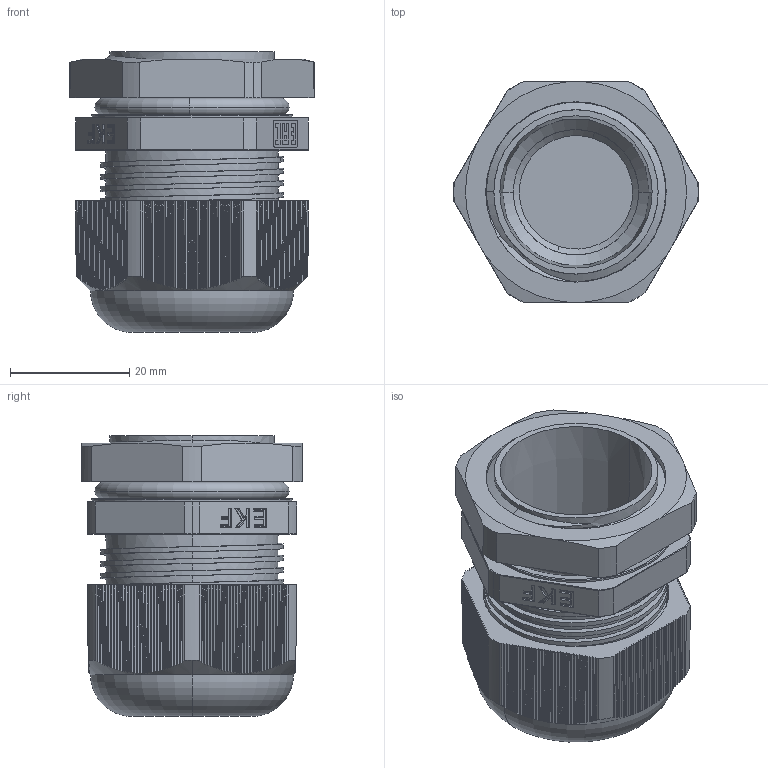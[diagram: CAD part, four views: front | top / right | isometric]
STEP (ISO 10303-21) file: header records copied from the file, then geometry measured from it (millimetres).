
FILE_DESCRIPTION (( 'STEP AP203' ), '1' );
FILE_NAME ('plc-pg-25-00.00.000ÑÁ Ñàëüíèê PG25 #cable gland PG25#.STEP', '2024-02-27T09:52:14', ( '' ), ( '' ), 'SwSTEP 2.0', 'SolidWorks 2021', '' );
FILE_SCHEMA (( 'CONFIG_CONTROL_DESIGN' ));
Length unit declared in the file: millimetre
Products named in the file (6): plc-pg-25-00.00.000ÑÁ Ñàëüíèê PG25 #cable gland PG25#; plc-pg-25-00.00.005 ﾌ瑙趺 (PG25) #sealing ring (PG25)#; plc-pg-25-00.00.004 Óïëîòíèòåëü (PG25) #sealant (PG25)#_¤®à ¡®âª ; plc-pg-25-00.00.002 Ãàéêà öàíãîâàÿ (PG25) #collet nut (PG25)#; plc-pg-25-00.00.003 Ãàéêà ïðèæèìíàÿ (PG25-Ì30) #clamping nut (PG25-M30)#; plc-pg-25-00.00.001 昢膼瘔 (PG25) #base (PG25)#
Assembly tree (5 placements, depth 2):
  plc-pg-25-00.00.000ÑÁ Ñàëüíèê PG25 #cable gland PG25#
    plc-pg-25-00.00.001 昢膼瘔 (PG25) #base (PG25)#
    plc-pg-25-00.00.002 Ãàéêà öàíãîâàÿ (PG25) #collet nut (PG25)#
    plc-pg-25-00.00.003 Ãàéêà ïðèæèìíàÿ (PG25-Ì30) #clamping nut (PG25-M30)#
    plc-pg-25-00.00.004 Óïëîòíèòåëü (PG25) #sealant (PG25)#_¤®à ¡®âª 
    plc-pg-25-00.00.005 ﾌ瑙趺 (PG25) #sealing ring (PG25)#
Bounding box: 40.99 x 37 x 47 mm (x, y, z)
Volume: 21416.2 mm3; surface area: 24144.8 mm2
Topology: 5 solids, 8 shells, 1198 faces, 3706 edges, 2429 vertices
Faces by surface type: plane 694, cylinder 178, cone 175, torus 84, bspline 67
Entity records: 54946 total; most frequent: CARTESIAN_POINT 23704, ORIENTED_EDGE 7412, DIRECTION 5080, EDGE_CURVE 3706, VERTEX_POINT 2429, VECTOR 1870, LINE 1870, AXIS2_PLACEMENT_3D 1605
